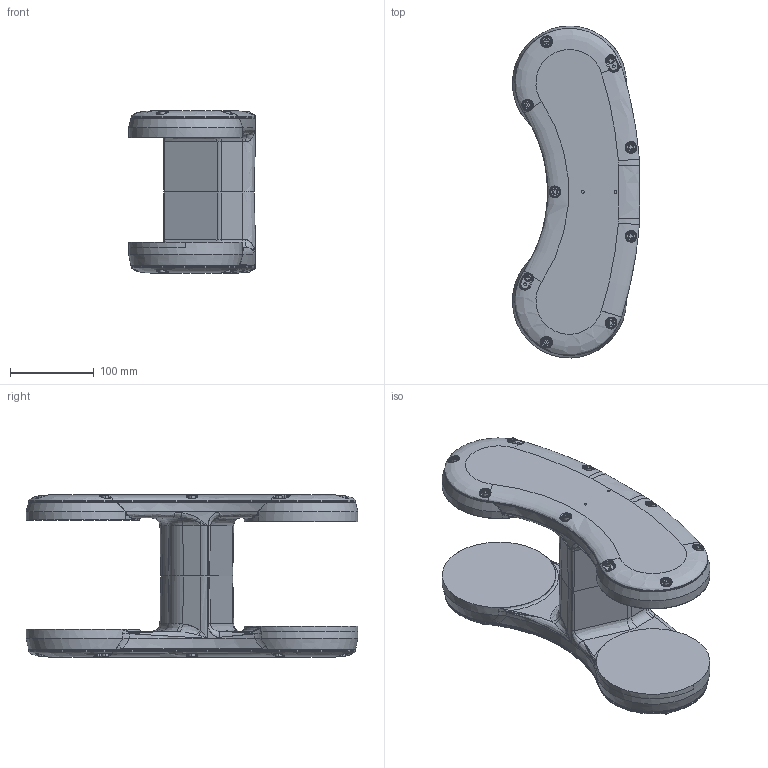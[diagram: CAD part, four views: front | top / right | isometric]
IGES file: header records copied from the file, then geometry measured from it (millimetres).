
Start section:  PTC IGES file: l-axis_view_yr-n1-06vx4-c00.igs
Global section: file name: l-axis_view_yr-n1-06vx4-c00.igs; native system: Creo Parametric by PTC Inc.; preprocessor: 2021072; author: iino20; organization: Unknown; date: 20250827.164325; units: millimetre
Bounding box: 151.61 x 395.97 x 193.6 mm (x, y, z)
Surface area: 266991.5 mm2 (no closed solid volume)
Topology: 0 solids, 0 shells, 699 faces, 3254 edges, 3254 vertices
Faces by surface type: bspline 361, revolution 338
